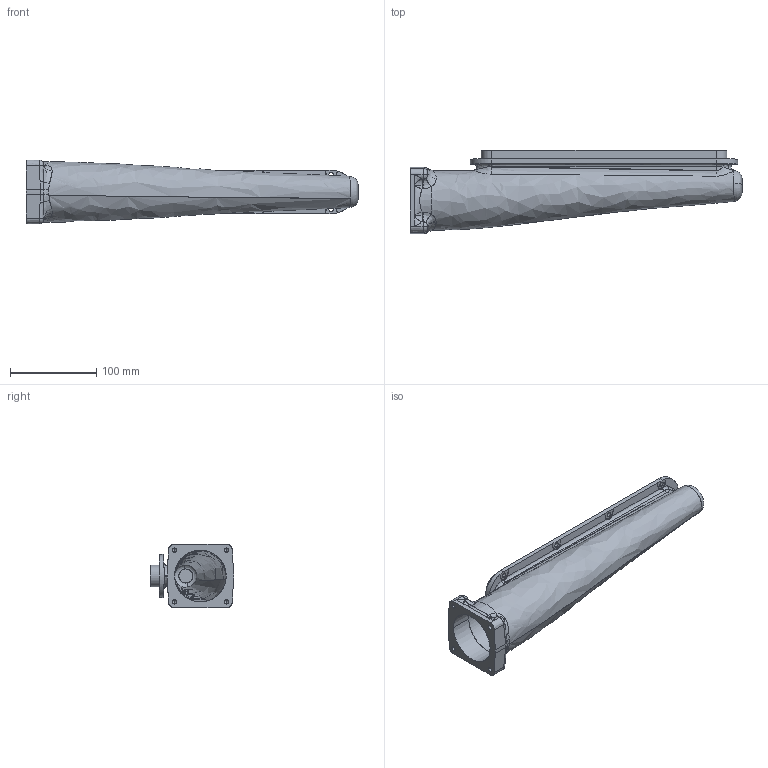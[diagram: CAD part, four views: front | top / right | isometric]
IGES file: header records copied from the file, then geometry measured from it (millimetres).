
Start section: SolidWorks IGES file using analytic representation for surfaces
Global section: file name: D:\??????? ? ?????\Lehmann turbo manifold MX-5 Miata\Lehmann turbo manifold MX-5 Miata F40 cone.IGS; native system: SolidWorks 2019; preprocessor: SolidWorks 2019; author: GOD; date: 250313.154930; units: millimetre
Bounding box: 385 x 96.51 x 74 mm (x, y, z)
Surface area: 165160.5 mm2 (no closed solid volume)
Topology: 0 solids, 0 shells, 277 faces, 3351 edges, 3335 vertices
Faces by surface type: bspline 181, revolution 96
